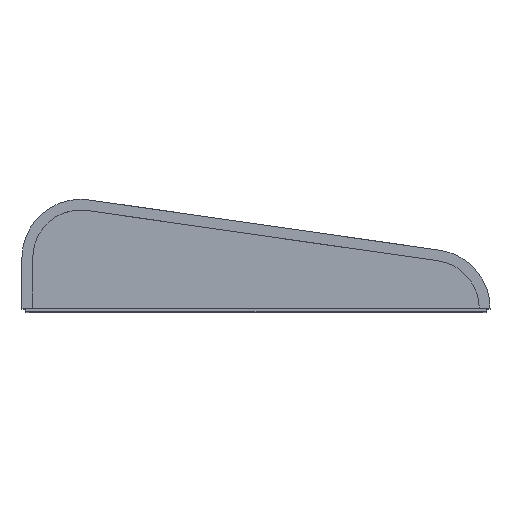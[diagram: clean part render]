
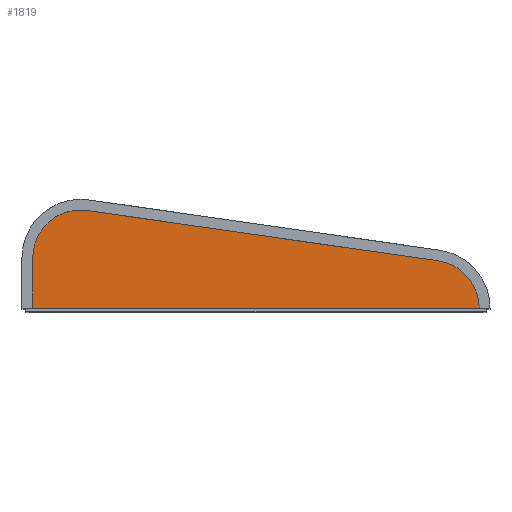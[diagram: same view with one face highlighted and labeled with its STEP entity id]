
A CAD part, top view. The second image highlights one B-rep face of the part: STEP entity #1819.
In plain terms, the highlighted planar face has unit normal (0, 0, 1).
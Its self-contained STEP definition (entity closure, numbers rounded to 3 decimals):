
#79 = VERTEX_POINT ( 'NONE', #1857 ) ;
#125 = ORIENTED_EDGE ( 'NONE', *, *, #4465, .F. ) ;
#302 = VECTOR ( 'NONE', #3911, 1000. ) ;
#366 = LINE ( 'NONE', #3836, #302 ) ;
#640 = CIRCLE ( 'NONE', #5924, 20.4 ) ;
#649 = AXIS2_PLACEMENT_3D ( 'NONE', #4045, #4559, #4918 ) ;
#695 = VECTOR ( 'NONE', #1910, 1000. ) ;
#832 = LINE ( 'NONE', #2361, #695 ) ;
#967 = DIRECTION ( 'NONE',  ( 1., 0., 0. ) ) ;
#982 = CARTESIAN_POINT ( 'NONE',  ( 75., 0., 132. ) ) ;
#1010 = DIRECTION ( 'NONE',  ( 0., 0., -1. ) ) ;
#1047 = ORIENTED_EDGE ( 'NONE', *, *, #4660, .T. ) ;
#1165 = EDGE_CURVE ( 'NONE', #1468, #79, #5759, .T. ) ;
#1285 = CARTESIAN_POINT ( 'NONE',  ( -95.4, 21.5, 132. ) ) ;
#1414 = EDGE_CURVE ( 'NONE', #3400, #1468, #5279, .T. ) ;
#1468 = VERTEX_POINT ( 'NONE', #4181 ) ;
#1819 = ADVANCED_FACE ( 'NONE', ( #4375 ), #4988, .T. ) ;
#1841 = DIRECTION ( 'NONE',  ( 0.99, -0.142, 0. ) ) ;
#1857 = CARTESIAN_POINT ( 'NONE',  ( 77.894, 20.194, 132. ) ) ;
#1910 = DIRECTION ( 'NONE',  ( -1., 0., 0. ) ) ;
#1930 = CARTESIAN_POINT ( 'NONE',  ( -70313.03, 10109.559, 132. ) ) ;
#2361 = CARTESIAN_POINT ( 'NONE',  ( -95.4, 0., 132. ) ) ;
#3225 = ORIENTED_EDGE ( 'NONE', *, *, #1165, .F. ) ;
#3267 = CARTESIAN_POINT ( 'NONE',  ( 95.4, 0., 132. ) ) ;
#3382 = ORIENTED_EDGE ( 'NONE', *, *, #4399, .F. ) ;
#3400 = VERTEX_POINT ( 'NONE', #1285 ) ;
#3585 = VERTEX_POINT ( 'NONE', #5486 ) ;
#3836 = CARTESIAN_POINT ( 'NONE',  ( -95.4, 500000., 132. ) ) ;
#3856 = EDGE_LOOP ( 'NONE', ( #125, #3225, #5629, #1047, #3382 ) ) ;
#3911 = DIRECTION ( 'NONE',  ( 0., -1., 0. ) ) ;
#4045 = CARTESIAN_POINT ( 'NONE',  ( -75., 21.5, 132. ) ) ;
#4142 = DIRECTION ( 'NONE',  ( 0., 0., 1. ) ) ;
#4155 = DIRECTION ( 'NONE',  ( 1., 0., 0. ) ) ;
#4181 = CARTESIAN_POINT ( 'NONE',  ( -72.106, 41.694, 132. ) ) ;
#4375 = FACE_OUTER_BOUND ( 'NONE', #3856, .T. ) ;
#4399 = EDGE_CURVE ( 'NONE', #4714, #3585, #832, .T. ) ;
#4465 = EDGE_CURVE ( 'NONE', #79, #4714, #640, .T. ) ;
#4559 = DIRECTION ( 'NONE',  ( 0., 0., -1. ) ) ;
#4660 = EDGE_CURVE ( 'NONE', #3400, #3585, #366, .T. ) ;
#4714 = VERTEX_POINT ( 'NONE', #3267 ) ;
#4918 = DIRECTION ( 'NONE',  ( 1., 0., 0. ) ) ;
#4988 = PLANE ( 'NONE',  #5610 ) ;
#5002 = CARTESIAN_POINT ( 'NONE',  ( -95.4, 500000., 132. ) ) ;
#5279 = CIRCLE ( 'NONE', #649, 20.4 ) ;
#5486 = CARTESIAN_POINT ( 'NONE',  ( -95.4, 0., 132. ) ) ;
#5610 = AXIS2_PLACEMENT_3D ( 'NONE', #5002, #4142, #4155 ) ;
#5629 = ORIENTED_EDGE ( 'NONE', *, *, #1414, .F. ) ;
#5739 = VECTOR ( 'NONE', #1841, 1000. ) ;
#5759 = LINE ( 'NONE', #1930, #5739 ) ;
#5924 = AXIS2_PLACEMENT_3D ( 'NONE', #982, #1010, #967 ) ;
